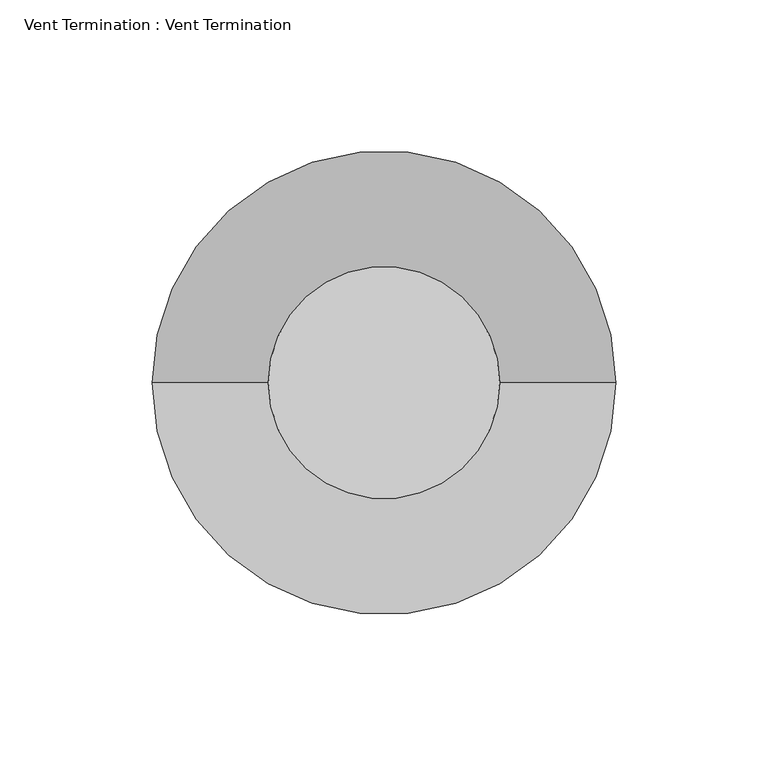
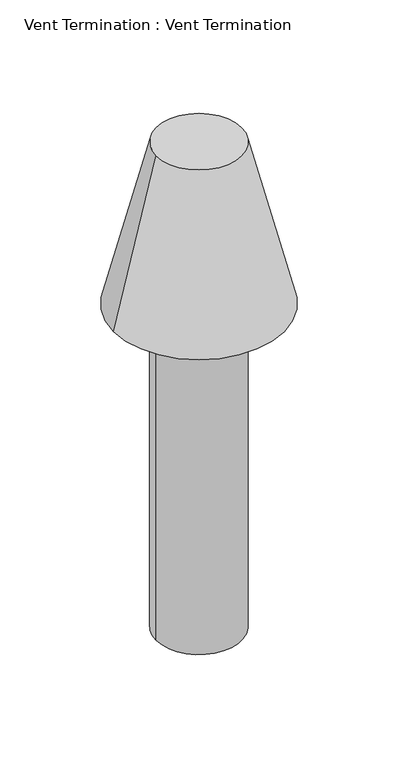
"""IFC4 building model written with IfcOpenShell, lengths in millimetres: flow terminal geometry, Vent Termination : Vent Termination."""

import ifcopenshell
import ifcopenshell.guid

model = None  # the IFC model being written
_history = None  # IfcOwnerHistory: only IFC2X3 demands one
_inside = {}  # id of a spatial element -> (the spatial element, [elements in it])
_under = {}  # id of a project, library or spatial element -> (it, [spatial elements below it])
_declared = {}  # id of a project -> (the project, [libraries it declares])
_typed = {}  # id of a type object -> (the type object, [elements of that type])
_made_of = {}  # id of a material, layer set ... -> (it, [elements and type objects made of it])


def new_model(schema):
    """Start an empty IFC model of exactly this schema.

    Asked for "IFC4X3", IfcOpenShell would pick the latest addendum, in which some entities
    have other attributes; the version numbers below select the first issue.
    IFC2X3 requires an IfcOwnerHistory on every rooted entity: one is made here for all.
    """
    global model, _history
    if schema == "IFC4X3":
        model = ifcopenshell.file(schema_version=(4, 3, 0, 0))
    else:
        model = ifcopenshell.file(schema=schema)
    _inside.clear()
    _under.clear()
    _declared.clear()
    _typed.clear()
    _made_of.clear()
    _history = None
    if model.schema == "IFC2X3":
        org = make("IfcOrganization", Name="unknown")
        user = make(
            "IfcPersonAndOrganization",
            ThePerson=make("IfcPerson", FamilyName="unknown"),
            TheOrganization=org,
        )
        app = make(
            "IfcApplication",
            ApplicationDeveloper=org,
            Version="unknown",
            ApplicationFullName="unknown",
            ApplicationIdentifier="unknown",
        )
        _history = make(
            "IfcOwnerHistory",
            OwningUser=user,
            OwningApplication=app,
            ChangeAction="ADDED",
            CreationDate=0,
        )
    return model


def make(cls, **values):
    """One entity of the class cls with the attributes given. An attribute that is None is left unset."""
    return model.create_entity(
        cls, **{name: value for name, value in values.items() if value is not None}
    )


def rooted(cls, **values):
    """An entity with a GlobalId (a new one), such as an element, a storey or a relation."""
    return make(cls, GlobalId=ifcopenshell.guid.new(), OwnerHistory=_history, **values)


def si_unit(unit_type, name, prefix=None):
    """IfcSIUnit, for example si_unit("LENGTHUNIT", "METRE", prefix="MILLI")."""
    return make("IfcSIUnit", UnitType=unit_type, Prefix=prefix, Name=name)


def assignment(units):
    """IfcUnitAssignment: the units of a project."""
    return None if units is None else make("IfcUnitAssignment", Units=units)


def point(xyz):
    """IfcCartesianPoint."""
    return None if xyz is None else make("IfcCartesianPoint", Coordinates=xyz)


def direction(xyz):
    """IfcDirection."""
    return None if xyz is None else make("IfcDirection", DirectionRatios=xyz)


def frame(location, z_axis=None, x_axis=None):
    """IfcAxis2Placement3D, a coordinate frame: its origin and axes. An axis left out is left unset."""
    return make(
        "IfcAxis2Placement3D",
        Location=point(location),
        Axis=direction(z_axis),
        RefDirection=direction(x_axis),
    )


def frame_2d(location, x_axis=None):
    """IfcAxis2Placement2D, a coordinate frame in the plane: its origin and x axis."""
    return make(
        "IfcAxis2Placement2D", Location=point(location), RefDirection=direction(x_axis)
    )


def origin():
    """The frame at (0, 0, 0) with its axes left unset."""
    return frame((0.0, 0.0, 0.0))


def origin_with_axes():
    """The frame at (0, 0, 0) with the z axis (0, 0, 1) and the x axis (1, 0, 0) written out."""
    return frame((0.0, 0.0, 0.0), z_axis=(0.0, 0.0, 1.0), x_axis=(1.0, 0.0, 0.0))


def origin_2d():
    """The frame at (0, 0) in the plane with its x axis left unset."""
    return frame_2d((0.0, 0.0))


def place(relative_to, where):
    """IfcLocalPlacement: puts the frame where relative to a parent placement (None: the world)."""
    return make(
        "IfcLocalPlacement", PlacementRelTo=relative_to, RelativePlacement=where
    )


def context(
    kind, dimensions, precision=None, world=None, true_north=None, identifier=None
):
    """IfcGeometricRepresentationContext, for example the 3D "Model" context."""
    return make(
        "IfcGeometricRepresentationContext",
        ContextIdentifier=identifier,
        ContextType=kind,
        CoordinateSpaceDimension=dimensions,
        Precision=precision,
        WorldCoordinateSystem=world,
        TrueNorth=true_north,
    )


def project(units=None, contexts=None):
    """IfcProject with its units and contexts."""
    return rooted(
        "IfcProject",
        Name="project",
        RepresentationContexts=contexts,
        UnitsInContext=assignment(units),
    )


def spatial(cls, under=None, at=None, **own):
    """A site, building, storey or space (cls), placed at a placement, below another one or the project."""
    s = rooted(cls, ObjectPlacement=at, **own)
    if under is not None:
        _under.setdefault(under.id(), (under, []))[1].append(s)
    return s


def polyline(points):
    """IfcPolyline through the points."""
    return make("IfcPolyline", Points=[point(p) for p in points])


def circle_curve(where, radius):
    """IfcCircle in the frame where."""
    return make("IfcCircle", Position=where, Radius=radius)


def trimmed(basis, trim1, trim2, sense, master):
    """IfcTrimmedCurve: the piece of a basis curve between two trims."""
    return make(
        "IfcTrimmedCurve",
        BasisCurve=basis,
        Trim1=trim1,
        Trim2=trim2,
        SenseAgreement=sense,
        MasterRepresentation=master,
    )


def segment(curve, same_sense, transition):
    """IfcCompositeCurveSegment."""
    return make(
        "IfcCompositeCurveSegment",
        Transition=transition,
        SameSense=same_sense,
        ParentCurve=curve,
    )


def composite_curve(segments, self_intersect=None):
    """IfcCompositeCurve: segments joined end to end."""
    return make("IfcCompositeCurve", Segments=segments, SelfIntersect=self_intersect)


def outline(outer, holes=None, kind="AREA"):
    """IfcArbitraryClosedProfileDef: a profile drawn as a closed curve; with holes, ...WithVoids."""
    if holes is None:
        return make("IfcArbitraryClosedProfileDef", ProfileType=kind, OuterCurve=outer)
    return make(
        "IfcArbitraryProfileDefWithVoids",
        ProfileType=kind,
        OuterCurve=outer,
        InnerCurves=holes,
    )


def extrude(swept, where, along, depth):
    """IfcExtrudedAreaSolid: the profile swept, set in the frame where, extruded along a direction by depth."""
    return make(
        "IfcExtrudedAreaSolid",
        SweptArea=swept,
        Position=where,
        ExtrudedDirection=direction(along),
        Depth=depth,
    )


def shape(context_of_items, identifier, shape_type, items):
    """IfcShapeRepresentation: the items that make up one representation, for example the "Body"."""
    return make(
        "IfcShapeRepresentation",
        ContextOfItems=context_of_items,
        RepresentationIdentifier=identifier,
        RepresentationType=shape_type,
        Items=items,
    )


def source(mapping_origin, context_of_items, identifier, shape_type, items):
    """IfcRepresentationMap: a shape defined once, which mapped items show again and again."""
    return make(
        "IfcRepresentationMap",
        MappingOrigin=mapping_origin,
        MappedRepresentation=shape(context_of_items, identifier, shape_type, items),
    )


def transform(
    local_origin,
    x_axis=None,
    y_axis=None,
    z_axis=None,
    scale=None,
    scale2=None,
    scale3=None,
    uniform=True,
):
    """IfcCartesianTransformationOperator3D, or its non-uniform kind. x_axis, y_axis, z_axis: its Axis1, 2, 3."""
    if uniform:
        return make(
            "IfcCartesianTransformationOperator3D",
            Axis1=direction(x_axis),
            Axis2=direction(y_axis),
            LocalOrigin=point(local_origin),
            Scale=scale,
            Axis3=direction(z_axis),
        )
    return make(
        "IfcCartesianTransformationOperator3DnonUniform",
        Axis1=direction(x_axis),
        Axis2=direction(y_axis),
        LocalOrigin=point(local_origin),
        Scale=scale,
        Axis3=direction(z_axis),
        Scale2=scale2,
        Scale3=scale3,
    )


def mapped(mapping_source, mapping_target):
    """IfcMappedItem: shows the shape of a source again, moved by a transform."""
    return make(
        "IfcMappedItem", MappingSource=mapping_source, MappingTarget=mapping_target
    )


def made_of(thing, what):
    """Note that an element or type object is made of a material, layer set ...; save() writes the relation."""
    if what is not None:
        _made_of.setdefault(what.id(), (what, []))[1].append(thing)
    return thing


def element(
    cls,
    number,
    at=None,
    inside=None,
    cuts=None,
    type_object=None,
    material=None,
    context=None,
    identifier="Body",
    shape_type=None,
    held_by="IfcProductDefinitionShape",
    body=None,
    shapes=None,
    **own,
):
    """One element of the class cls, such as IfcWall. Its Tag is "e" and its number.

    at: its placement. inside: the storey or other place that contains it. cuts: it is an
    opening in that element (IfcRelVoidsElement). A single representation is given by context,
    identifier, shape_type and body (its items); several are given by shapes. held_by: the class
    of the entity that holds the representations. save() writes the other relations.
    """
    e = rooted(cls, Tag="e%d" % number, ObjectPlacement=at, **own)
    if body is not None:
        shapes = [shape(context, identifier, shape_type, body)]
    if shapes is not None:
        e.Representation = make(held_by, Representations=shapes)
    if inside is not None:
        _inside.setdefault(inside.id(), (inside, []))[1].append(e)
    if cuts is not None:
        rooted(
            "IfcRelVoidsElement", RelatingBuildingElement=cuts, RelatedOpeningElement=e
        )
    if type_object is not None:
        _typed.setdefault(type_object.id(), (type_object, []))[1].append(e)
    return made_of(e, material)


def aggregate(whole, parts):
    """IfcRelAggregates: a whole, such as a stair, and the parts it consists of."""
    return rooted("IfcRelAggregates", RelatingObject=whole, RelatedObjects=parts)


def save(model, path):
    """Write the relations noted so far, then the file.

    IfcRelAggregates (storeys below a building ...), IfcRelContainedInSpatialStructure (elements
    in a storey), IfcRelDefinesByType, IfcRelAssociatesMaterial and IfcRelDeclares: one each for
    every whole, place, type object, material and project.
    """
    for whole, parts in _under.values():
        aggregate(whole, parts)
    for where, things in _inside.values():
        rooted(
            "IfcRelContainedInSpatialStructure",
            RelatedElements=things,
            RelatingStructure=where,
        )
    for kind, things in _typed.values():
        rooted("IfcRelDefinesByType", RelatedObjects=things, RelatingType=kind)
    for what, things in _made_of.values():
        rooted("IfcRelAssociatesMaterial", RelatedObjects=things, RelatingMaterial=what)
    for by, libraries in _declared.values():
        rooted("IfcRelDeclares", RelatingContext=by, RelatedDefinitions=libraries)
    model.write(path)


def plane_surface(at):
    """IfcPlane: the flat surface through the origin of the frame at, square to its z axis."""
    return make("IfcPlane", Position=at)


def revolved_surface(curve, axis_point, axis_direction):
    """IfcSurfaceOfRevolution: the curve turned about the line through axis_point along axis_direction."""
    return make(
        "IfcSurfaceOfRevolution",
        SweptCurve=make("IfcArbitraryOpenProfileDef", ProfileType="CURVE", Curve=curve),
        AxisPosition=make("IfcAxis1Placement", Location=point(axis_point), Axis=direction(axis_direction)),
    )


def advanced_brep(points, edges, surfaces, faces):
    """IfcAdvancedBrep: a solid bounded by faces that lie on surfaces and meet in shared edges.

    An edge is (start, end): straight between two places in points (the first is 0);
    or (start, end, curve); or (start, end, curve, False) where it runs against its curve.
    A face is (place in surfaces, loops), or (place, loops, False) where it looks against
    its surface's normal. A loop lists edges by number (the first is 1), with a minus sign
    where the edge is run from its end to its start. The first loop is the outer one.
    """
    corners = [point(p) for p in points]
    vertices = [make("IfcVertexPoint", VertexGeometry=c) for c in corners]
    made = []
    for start, end, *more in edges:
        made.append(
            make(
                "IfcEdgeCurve",
                EdgeStart=vertices[start],
                EdgeEnd=vertices[end],
                EdgeGeometry=more[0] if more else make("IfcPolyline", Points=[corners[start], corners[end]]),
                SameSense=more[1] if len(more) > 1 else True,
            )
        )
    hull = []
    for where, loops, *sense in faces:
        bounds = []
        for j, loop in enumerate(loops):
            ring = [make("IfcOrientedEdge", EdgeElement=made[abs(k) - 1], Orientation=k > 0) for k in loop]
            bounds.append(
                make(
                    "IfcFaceOuterBound" if j == 0 else "IfcFaceBound",
                    Bound=make("IfcEdgeLoop", EdgeList=ring),
                    Orientation=True,
                )
            )
        hull.append(make("IfcAdvancedFace", Bounds=bounds, FaceSurface=surfaces[where], SameSense=sense[0] if sense else True))
    return make("IfcAdvancedBrep", Outer=make("IfcClosedShell", CfsFaces=hull))


def vent_termination_vent_termination_79547288(model_context):
    return source(origin(), model_context, "Body", "SolidModel", [
        advanced_brep(
        [(-38.1, 0.0, 457.2), (38.1, 0.0, 457.2), (-76.2, 0.0, 304.8), (76.2, 0.0, 304.8)],
        [
            (0, 1, circle_curve(frame((0.0, 0.0, 457.2), z_axis=(0.0, 0.0, 1.0), x_axis=(-1.0, 0.0, 0.0)), 38.1)),
            (1, 0, circle_curve(frame((0.0, 0.0, 457.2), z_axis=(0.0, 0.0, 1.0), x_axis=(1.0, 0.0, 0.0)), 38.1)),
            (2, 3, circle_curve(frame((0.0, 0.0, 304.8), z_axis=(0.0, 0.0, -1.0), x_axis=(1.0, 0.0, 0.0)), 76.2)),
            (3, 2, circle_curve(frame((0.0, 0.0, 304.8), z_axis=(0.0, 0.0, -1.0), x_axis=(-1.0, 0.0, 0.0)), 76.2)),
            (3, 1),
            (0, 2),
        ],
        [
            plane_surface(frame((0.0, 0.0, 457.2), z_axis=(0.0, 0.0, 1.0), x_axis=(0.0, -1.0, 0.0))),
            plane_surface(frame((0.0, 0.0, 304.8), z_axis=(0.0, 0.0, -1.0), x_axis=(0.0, -1.0, 0.0))),
            revolved_surface(polyline([(-38.10000000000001, 0.0, 457.2), (-76.2, 0.0, 304.8)]), (0.0, 0.0, 609.6), (0.0, 0.0, -1.0)),
            revolved_surface(polyline([(38.10000000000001, 0.0, 457.2), (76.2, 0.0, 304.8)]), (0.0, 0.0, 609.6), (0.0, 0.0, -1.0)),
        ],
        [
            (0, [[1, 2]]),
            (1, [[3, 4]]),
            (2, [[-4, 5, -1, 6]]),
            (3, [[-3, -6, -2, -5]]),
        ],
    ),
        extrude(outline(composite_curve([segment(trimmed(circle_curve(origin_2d(), 38.1), [point((-38.1, 0.0))], [point((38.1, 0.0))], False, "CARTESIAN"), True, "CONTINUOUS"), segment(trimmed(circle_curve(origin_2d(), 38.1), [point((38.1, 0.0))], [point((-38.1, 0.0))], False, "CARTESIAN"), True, "CONTINUOUS")], self_intersect=False)), origin_with_axes(), (0.0, 0.0, 1.0), 304.8),
    ])


if __name__ == "__main__":
    model = new_model("IFC4")
    model_context = context("Model", 3, world=origin())
    ifc_project = project(units=[si_unit("LENGTHUNIT", "METRE", prefix="MILLI")], contexts=[model_context])
    site = spatial("IfcSite", under=ifc_project)
    building = spatial("IfcBuilding", under=site)
    placement = place(None, origin())
    vent_termination_vent_termination_shape = vent_termination_vent_termination_79547288(model_context)
    element("IfcFlowTerminal", 1, ObjectType="Vent Termination : Vent Termination", at=placement, inside=building, context=model_context, shape_type="MappedRepresentation", body=[
        mapped(vent_termination_vent_termination_shape, transform((0.0, 0.0, 0.0), x_axis=(1.0, 0.0, 0.0), y_axis=(0.0, 1.0, 0.0), z_axis=(0.0, 0.0, 1.0))),
    ])
    save(model, "model.ifc")
